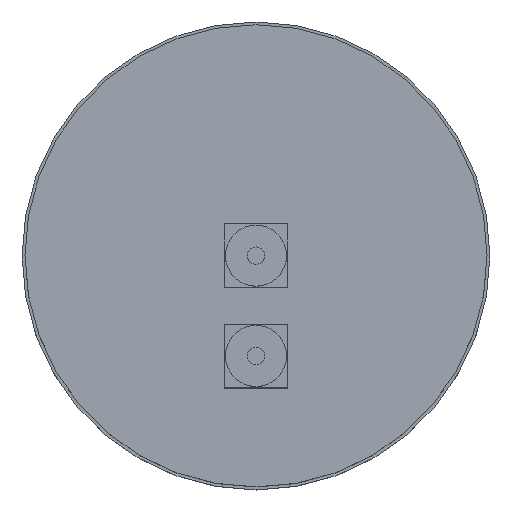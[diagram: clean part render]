
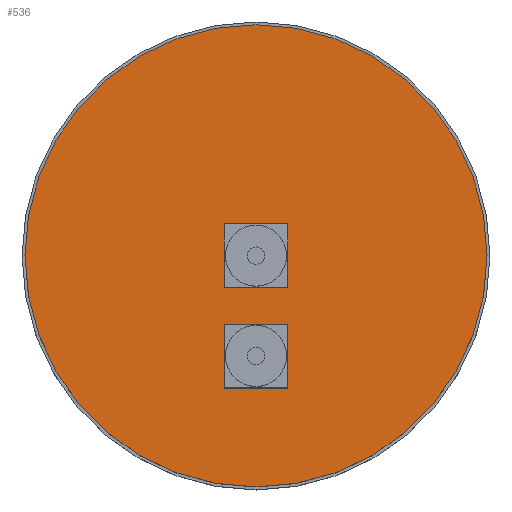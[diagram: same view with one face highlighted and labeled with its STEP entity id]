
A CAD part, top view. The second image highlights one B-rep face of the part: STEP entity #536.
In plain terms, the highlighted planar face has unit normal (0, 0, 1).
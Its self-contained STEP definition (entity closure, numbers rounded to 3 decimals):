
#1 = FACE_OUTER_BOUND ( 'NONE', #6, .T. ) ;
#6 = EDGE_LOOP ( 'NONE', ( #509, #112 ) ) ;
#9 = ORIENTED_EDGE ( 'NONE', *, *, #411, .F. ) ;
#47 = VERTEX_POINT ( 'NONE', #368 ) ;
#54 = VECTOR ( 'NONE', #768, 1000. ) ;
#60 = FACE_BOUND ( 'NONE', #632, .T. ) ;
#64 = CARTESIAN_POINT ( 'NONE',  ( -79.5, 0., 49. ) ) ;
#71 = CARTESIAN_POINT ( 'NONE',  ( 79.5, 0., 49. ) ) ;
#74 = VERTEX_POINT ( 'NONE', #440 ) ;
#84 = VECTOR ( 'NONE', #731, 1000. ) ;
#85 = CARTESIAN_POINT ( 'NONE',  ( -11., -23.5, 49. ) ) ;
#96 = VECTOR ( 'NONE', #604, 1000. ) ;
#98 = CARTESIAN_POINT ( 'NONE',  ( 11., 11., 49. ) ) ;
#112 = ORIENTED_EDGE ( 'NONE', *, *, #501, .T. ) ;
#133 = CIRCLE ( 'NONE', #613, 79.5 ) ;
#143 = CARTESIAN_POINT ( 'NONE',  ( 11., -11., 49. ) ) ;
#153 = CARTESIAN_POINT ( 'NONE',  ( -11., -23.5, 49. ) ) ;
#159 = VECTOR ( 'NONE', #653, 1000. ) ;
#171 = ORIENTED_EDGE ( 'NONE', *, *, #789, .F. ) ;
#176 = VERTEX_POINT ( 'NONE', #228 ) ;
#189 = DIRECTION ( 'NONE',  ( 1., 0., 0. ) ) ;
#200 = VECTOR ( 'NONE', #493, 1000. ) ;
#227 = CIRCLE ( 'NONE', #691, 79.5 ) ;
#228 = CARTESIAN_POINT ( 'NONE',  ( -11., -11., 49. ) ) ;
#247 = VERTEX_POINT ( 'NONE', #386 ) ;
#265 = DIRECTION ( 'NONE',  ( 0., 0., 1. ) ) ;
#266 = VECTOR ( 'NONE', #450, 1000. ) ;
#280 = CARTESIAN_POINT ( 'NONE',  ( -11., -23.5, 49. ) ) ;
#285 = CARTESIAN_POINT ( 'NONE',  ( -11., -11., 49. ) ) ;
#305 = DIRECTION ( 'NONE',  ( 0., 0., 1. ) ) ;
#324 = EDGE_CURVE ( 'NONE', #806, #74, #697, .T. ) ;
#327 = VERTEX_POINT ( 'NONE', #64 ) ;
#329 = CARTESIAN_POINT ( 'NONE',  ( -11., -45.5, 49. ) ) ;
#337 = LINE ( 'NONE', #776, #54 ) ;
#365 = ORIENTED_EDGE ( 'NONE', *, *, #469, .F. ) ;
#368 = CARTESIAN_POINT ( 'NONE',  ( 11., -23.5, 49. ) ) ;
#373 = PLANE ( 'NONE',  #449 ) ;
#374 = EDGE_CURVE ( 'NONE', #47, #422, #407, .T. ) ;
#382 = CARTESIAN_POINT ( 'NONE',  ( 0., 0., 49. ) ) ;
#386 = CARTESIAN_POINT ( 'NONE',  ( 11., 11., 49. ) ) ;
#387 = ORIENTED_EDGE ( 'NONE', *, *, #394, .F. ) ;
#390 = VECTOR ( 'NONE', #473, 1000. ) ;
#393 = CARTESIAN_POINT ( 'NONE',  ( 0., 0., 49. ) ) ;
#394 = EDGE_CURVE ( 'NONE', #247, #698, #427, .T. ) ;
#398 = CARTESIAN_POINT ( 'NONE',  ( -11., 11., 49. ) ) ;
#407 = LINE ( 'NONE', #280, #200 ) ;
#410 = DIRECTION ( 'NONE',  ( 1., 0., 0. ) ) ;
#411 = EDGE_CURVE ( 'NONE', #698, #176, #465, .T. ) ;
#422 = VERTEX_POINT ( 'NONE', #153 ) ;
#427 = LINE ( 'NONE', #723, #390 ) ;
#440 = CARTESIAN_POINT ( 'NONE',  ( 11., -45.5, 49. ) ) ;
#449 = AXIS2_PLACEMENT_3D ( 'NONE', #382, #305, #189 ) ;
#450 = DIRECTION ( 'NONE',  ( 1., 0., 0. ) ) ;
#451 = VERTEX_POINT ( 'NONE', #143 ) ;
#465 = LINE ( 'NONE', #398, #159 ) ;
#469 = EDGE_CURVE ( 'NONE', #422, #806, #659, .T. ) ;
#471 = ORIENTED_EDGE ( 'NONE', *, *, #324, .F. ) ;
#473 = DIRECTION ( 'NONE',  ( -1., 0., 0. ) ) ;
#475 = VECTOR ( 'NONE', #410, 1000. ) ;
#492 = LINE ( 'NONE', #285, #475 ) ;
#493 = DIRECTION ( 'NONE',  ( -1., 0., 0. ) ) ;
#501 = EDGE_CURVE ( 'NONE', #655, #327, #133, .T. ) ;
#509 = ORIENTED_EDGE ( 'NONE', *, *, #732, .T. ) ;
#535 = CARTESIAN_POINT ( 'NONE',  ( -11., 11., 49. ) ) ;
#536 = ADVANCED_FACE ( 'NONE', ( #60, #1, #760 ), #373, .T. ) ;
#539 = ORIENTED_EDGE ( 'NONE', *, *, #782, .F. ) ;
#552 = EDGE_LOOP ( 'NONE', ( #730, #586, #471, #365 ) ) ;
#586 = ORIENTED_EDGE ( 'NONE', *, *, #699, .F. ) ;
#604 = DIRECTION ( 'NONE',  ( 0., -1., 0. ) ) ;
#613 = AXIS2_PLACEMENT_3D ( 'NONE', #747, #755, #625 ) ;
#618 = CARTESIAN_POINT ( 'NONE',  ( -11., -45.5, 49. ) ) ;
#625 = DIRECTION ( 'NONE',  ( 1., 0., 0. ) ) ;
#632 = EDGE_LOOP ( 'NONE', ( #539, #171, #9, #387 ) ) ;
#653 = DIRECTION ( 'NONE',  ( 0., -1., 0. ) ) ;
#655 = VERTEX_POINT ( 'NONE', #71 ) ;
#659 = LINE ( 'NONE', #85, #96 ) ;
#691 = AXIS2_PLACEMENT_3D ( 'NONE', #393, #265, #710 ) ;
#697 = LINE ( 'NONE', #329, #266 ) ;
#698 = VERTEX_POINT ( 'NONE', #535 ) ;
#699 = EDGE_CURVE ( 'NONE', #74, #47, #337, .T. ) ;
#710 = DIRECTION ( 'NONE',  ( 1., 0., 0. ) ) ;
#723 = CARTESIAN_POINT ( 'NONE',  ( -11., 11., 49. ) ) ;
#730 = ORIENTED_EDGE ( 'NONE', *, *, #374, .F. ) ;
#731 = DIRECTION ( 'NONE',  ( 0., 1., 0. ) ) ;
#732 = EDGE_CURVE ( 'NONE', #327, #655, #227, .T. ) ;
#747 = CARTESIAN_POINT ( 'NONE',  ( 0., 0., 49. ) ) ;
#755 = DIRECTION ( 'NONE',  ( 0., 0., 1. ) ) ;
#760 = FACE_BOUND ( 'NONE', #552, .T. ) ;
#768 = DIRECTION ( 'NONE',  ( 0., 1., 0. ) ) ;
#776 = CARTESIAN_POINT ( 'NONE',  ( 11., -23.5, 49. ) ) ;
#782 = EDGE_CURVE ( 'NONE', #451, #247, #785, .T. ) ;
#785 = LINE ( 'NONE', #98, #84 ) ;
#789 = EDGE_CURVE ( 'NONE', #176, #451, #492, .T. ) ;
#806 = VERTEX_POINT ( 'NONE', #618 ) ;
